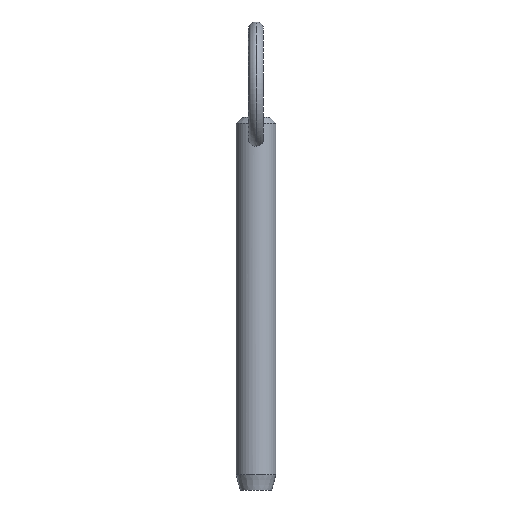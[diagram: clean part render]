
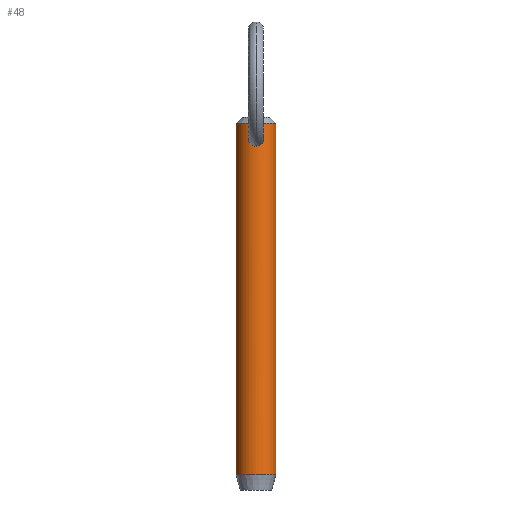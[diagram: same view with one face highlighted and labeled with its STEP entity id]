
A CAD part, front view. The second image highlights one B-rep face of the part: STEP entity #48.
In plain terms, the highlighted cylindrical face has radius 3.965 mm (diameter 7.93 mm), a partial arc.
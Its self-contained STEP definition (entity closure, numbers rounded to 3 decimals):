
#10 = ORIENTED_EDGE ( 'NONE', *, *, #208, .T. ) ;
#16 = CARTESIAN_POINT ( 'NONE',  ( 1.434, -3.697, 61.005 ) ) ;
#26 = ORIENTED_EDGE ( 'NONE', *, *, #502, .T. ) ;
#27 = CARTESIAN_POINT ( 'NONE',  ( -0.957, -3.85, 59.341 ) ) ;
#30 = CARTESIAN_POINT ( 'NONE',  ( -3.965, 0., 58.4 ) ) ;
#32 = VERTEX_POINT ( 'NONE', #406 ) ;
#33 = CARTESIAN_POINT ( 'NONE',  ( -1.29, -3.75, 61.385 ) ) ;
#45 = CIRCLE ( 'NONE', #318, 3.965 ) ;
#48 = ADVANCED_FACE ( 'NONE', ( #317, #401 ), #199, .T. ) ;
#55 = ORIENTED_EDGE ( 'NONE', *, *, #360, .T. ) ;
#56 = CARTESIAN_POINT ( 'NONE',  ( 0.102, -3.965, 62.247 ) ) ;
#59 = AXIS2_PLACEMENT_3D ( 'NONE', #454, #213, #144 ) ;
#60 = CARTESIAN_POINT ( 'NONE',  ( 3.965, 0., 63.55 ) ) ;
#63 = CARTESIAN_POINT ( 'NONE',  ( 1.499, -3.671, 60.397 ) ) ;
#70 = CARTESIAN_POINT ( 'NONE',  ( -0.788, -3.891, 59.228 ) ) ;
#77 = CARTESIAN_POINT ( 'NONE',  ( -1.48, -3.679, 60.189 ) ) ;
#100 = DIRECTION ( 'NONE',  ( 0., 0., -1. ) ) ;
#101 = CARTESIAN_POINT ( 'NONE',  ( 0.409, -3.948, 59.074 ) ) ;
#104 = EDGE_LOOP ( 'NONE', ( #457, #55 ) ) ;
#105 = CARTESIAN_POINT ( 'NONE',  ( 0.693, -3.905, 59.19 ) ) ;
#108 = CARTESIAN_POINT ( 'NONE',  ( 0.949, -3.851, 59.349 ) ) ;
#110 = CARTESIAN_POINT ( 'NONE',  ( -1.335, -3.734, 59.81 ) ) ;
#113 = CARTESIAN_POINT ( 'NONE',  ( -1.488, -3.675, 60.805 ) ) ;
#141 = CARTESIAN_POINT ( 'NONE',  ( 0.498, -3.935, 62.144 ) ) ;
#144 = DIRECTION ( 'NONE',  ( 1., 0., 0. ) ) ;
#150 = CARTESIAN_POINT ( 'NONE',  ( -0.205, -3.965, 59.035 ) ) ;
#154 = VERTEX_POINT ( 'NONE', #292 ) ;
#156 = CARTESIAN_POINT ( 'NONE',  ( -0.403, -3.946, 62.182 ) ) ;
#162 = CARTESIAN_POINT ( 'NONE',  ( -1.379, -3.718, 59.903 ) ) ;
#166 = LINE ( 'NONE', #214, #171 ) ;
#171 = VECTOR ( 'NONE', #100, 1000. ) ;
#176 = ORIENTED_EDGE ( 'NONE', *, *, #266, .F. ) ;
#180 = CARTESIAN_POINT ( 'NONE',  ( 1.186, -3.786, 61.559 ) ) ;
#182 = CARTESIAN_POINT ( 'NONE',  ( 0.404, -3.946, 62.182 ) ) ;
#183 = CARTESIAN_POINT ( 'NONE',  ( 1.346, -3.73, 59.808 ) ) ;
#187 = CARTESIAN_POINT ( 'NONE',  ( 1.447, -3.692, 60.093 ) ) ;
#189 = DIRECTION ( 'NONE',  ( 0., 0., 1. ) ) ;
#193 = CARTESIAN_POINT ( 'NONE',  ( -0.41, -3.948, 59.074 ) ) ;
#199 = CYLINDRICAL_SURFACE ( 'NONE', #485, 3.965 ) ;
#200 = CARTESIAN_POINT ( 'NONE',  ( 0., 0., 58.4 ) ) ;
#208 = EDGE_CURVE ( 'NONE', #319, #511, #324, .T. ) ;
#213 = DIRECTION ( 'NONE',  ( 0., 0., -1. ) ) ;
#214 = CARTESIAN_POINT ( 'NONE',  ( 3.965, 0., 58.4 ) ) ;
#218 = CARTESIAN_POINT ( 'NONE',  ( 1.291, -3.75, 61.383 ) ) ;
#219 = CARTESIAN_POINT ( 'NONE',  ( 1.479, -3.679, 60.807 ) ) ;
#228 = CARTESIAN_POINT ( 'NONE',  ( 0.782, -3.888, 59.237 ) ) ;
#232 = CARTESIAN_POINT ( 'NONE',  ( -0.77, -3.894, 62. ) ) ;
#233 = CARTESIAN_POINT ( 'NONE',  ( -1.168, -3.79, 59.559 ) ) ;
#236 = CARTESIAN_POINT ( 'NONE',  ( 0., -3.965, 62.247 ) ) ;
#239 = CARTESIAN_POINT ( 'NONE',  ( 0., -3.965, 62.247 ) ) ;
#242 = VECTOR ( 'NONE', #321, 1000. ) ;
#244 = EDGE_LOOP ( 'NONE', ( #176, #10, #26, #257 ) ) ;
#245 = DIRECTION ( 'NONE',  ( 0., 0., -1. ) ) ;
#257 = ORIENTED_EDGE ( 'NONE', *, *, #322, .T. ) ;
#259 = CARTESIAN_POINT ( 'NONE',  ( 0.205, -3.961, 62.234 ) ) ;
#261 = CARTESIAN_POINT ( 'NONE',  ( 1.404, -3.708, 61.101 ) ) ;
#264 = CARTESIAN_POINT ( 'NONE',  ( 0., 0., -6.52 ) ) ;
#266 = EDGE_CURVE ( 'NONE', #319, #154, #166, .T. ) ;
#271 = CARTESIAN_POINT ( 'NONE',  ( 1.471, -3.682, 60.194 ) ) ;
#275 = CARTESIAN_POINT ( 'NONE',  ( -3.965, 0., 63.55 ) ) ;
#276 = VERTEX_POINT ( 'NONE', #302 ) ;
#280 = EDGE_CURVE ( 'NONE', #446, #32, #431, .T. ) ;
#292 = CARTESIAN_POINT ( 'NONE',  ( 3.965, 0., -6.52 ) ) ;
#302 = CARTESIAN_POINT ( 'NONE',  ( -3.965, 0., -6.52 ) ) ;
#307 = CARTESIAN_POINT ( 'NONE',  ( 0.205, -3.965, 59.035 ) ) ;
#310 = CARTESIAN_POINT ( 'NONE',  ( 0., -3.965, 59.035 ) ) ;
#315 = CARTESIAN_POINT ( 'NONE',  ( -1.229, -3.77, 59.639 ) ) ;
#317 = FACE_OUTER_BOUND ( 'NONE', #244, .T. ) ;
#318 = AXIS2_PLACEMENT_3D ( 'NONE', #264, #189, #426 ) ;
#319 = VERTEX_POINT ( 'NONE', #60 ) ;
#320 = CARTESIAN_POINT ( 'NONE',  ( -0.498, -3.935, 62.144 ) ) ;
#321 = DIRECTION ( 'NONE',  ( 0., 0., -1. ) ) ;
#322 = EDGE_CURVE ( 'NONE', #276, #154, #45, .T. ) ;
#324 = CIRCLE ( 'NONE', #59, 3.965 ) ;
#358 = CARTESIAN_POINT ( 'NONE',  ( -1.441, -3.695, 61.008 ) ) ;
#360 = EDGE_CURVE ( 'NONE', #32, #446, #425, .T. ) ;
#386 = CARTESIAN_POINT ( 'NONE',  ( 1.493, -3.673, 60.704 ) ) ;
#392 = CARTESIAN_POINT ( 'NONE',  ( 1.028, -3.83, 59.415 ) ) ;
#396 = CARTESIAN_POINT ( 'NONE',  ( -1.186, -3.786, 61.56 ) ) ;
#401 = FACE_BOUND ( 'NONE', #104, .T. ) ;
#406 = CARTESIAN_POINT ( 'NONE',  ( 0., -3.965, 59.035 ) ) ;
#418 = CARTESIAN_POINT ( 'NONE',  ( 0.77, -3.894, 62. ) ) ;
#425 = B_SPLINE_CURVE_WITH_KNOTS ( 'NONE', 3,
 ( #310, #150, #193, #70, #27, #233, #315, #110, #162, #77, #438, #113, #358, #33, #396, #507, #232, #320, #156, #440, #505, #236 ),
 .UNSPECIFIED., .F., .F.,
 ( 4, 2, 2, 2, 2, 2, 2, 2, 2, 2, 4 ),
 ( 0.009, 0.01, 0.01, 0.011, 0.011, 0.012, 0.012, 0.013, 0.013, 0.014, 0.014 ),
 .UNSPECIFIED. ) ;
#426 = DIRECTION ( 'NONE',  ( -1., 0., 0. ) ) ;
#431 = B_SPLINE_CURVE_WITH_KNOTS ( 'NONE', 3,
 ( #494, #56, #259, #182, #141, #418, #460, #180, #218, #261, #16, #219, #386, #469, #63, #271, #187, #183, #465, #392, #108, #228, #105, #101, #307, #501 ),
 .UNSPECIFIED., .F., .F.,
 ( 4, 2, 2, 2, 2, 2, 2, 2, 2, 2, 2, 2, 4 ),
 ( 0.004, 0.005, 0.005, 0.005, 0.006, 0.006, 0.007, 0.007, 0.007, 0.008, 0.008, 0.008, 0.009 ),
 .UNSPECIFIED. ) ;
#438 = CARTESIAN_POINT ( 'NONE',  ( -1.508, -3.667, 60.397 ) ) ;
#440 = CARTESIAN_POINT ( 'NONE',  ( -0.206, -3.961, 62.234 ) ) ;
#446 = VERTEX_POINT ( 'NONE', #239 ) ;
#454 = CARTESIAN_POINT ( 'NONE',  ( 0., 0., 63.55 ) ) ;
#455 = LINE ( 'NONE', #30, #242 ) ;
#457 = ORIENTED_EDGE ( 'NONE', *, *, #280, .T. ) ;
#460 = CARTESIAN_POINT ( 'NONE',  ( 0.925, -3.858, 61.868 ) ) ;
#465 = CARTESIAN_POINT ( 'NONE',  ( 1.237, -3.77, 59.631 ) ) ;
#469 = CARTESIAN_POINT ( 'NONE',  ( 1.503, -3.669, 60.499 ) ) ;
#473 = DIRECTION ( 'NONE',  ( -1., 0., 0. ) ) ;
#485 = AXIS2_PLACEMENT_3D ( 'NONE', #200, #245, #473 ) ;
#494 = CARTESIAN_POINT ( 'NONE',  ( 0., -3.965, 62.247 ) ) ;
#501 = CARTESIAN_POINT ( 'NONE',  ( 0., -3.965, 59.035 ) ) ;
#502 = EDGE_CURVE ( 'NONE', #511, #276, #455, .T. ) ;
#505 = CARTESIAN_POINT ( 'NONE',  ( -0.102, -3.965, 62.247 ) ) ;
#507 = CARTESIAN_POINT ( 'NONE',  ( -0.925, -3.858, 61.868 ) ) ;
#511 = VERTEX_POINT ( 'NONE', #275 ) ;
